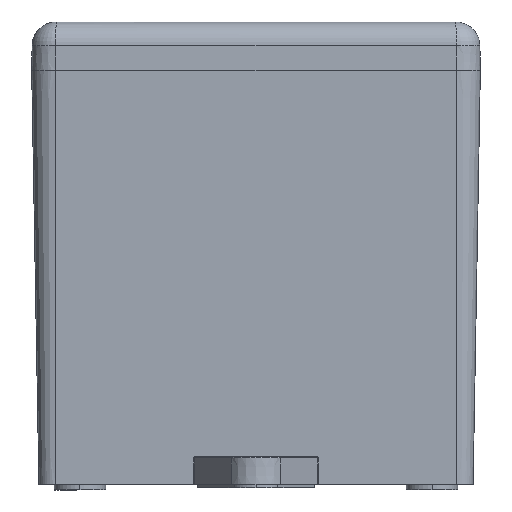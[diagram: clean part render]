
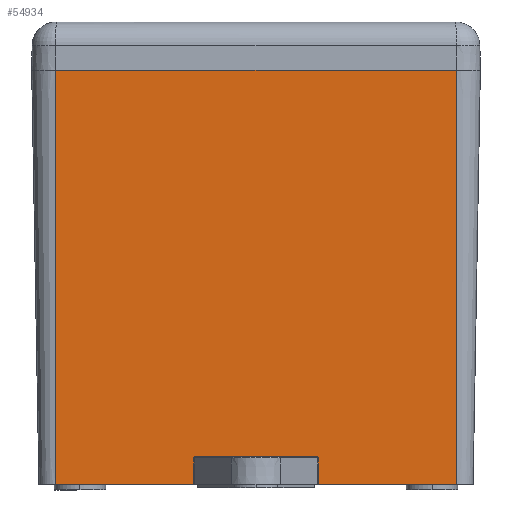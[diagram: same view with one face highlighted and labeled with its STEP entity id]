
A CAD part, left-side view. The second image highlights one B-rep face of the part: STEP entity #54934.
In plain terms, the highlighted planar face has unit normal (-1, 0, -0.018).
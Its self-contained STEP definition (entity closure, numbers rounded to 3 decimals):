
#100 = VERTEX_POINT ( 'NONE', #41471 ) ;
#643 = LINE ( 'NONE', #16244, #65813 ) ;
#2746 = LINE ( 'NONE', #12383, #9185 ) ;
#3342 = VECTOR ( 'NONE', #27461, 1000. ) ;
#6886 = CARTESIAN_POINT ( 'NONE',  ( -65., -58., -14. ) ) ;
#8753 = ORIENTED_EDGE ( 'NONE', *, *, #14775, .T. ) ;
#9185 = VECTOR ( 'NONE', #47925, 1000. ) ;
#10875 = EDGE_CURVE ( 'NONE', #100, #64907, #58813, .T. ) ;
#11115 = ORIENTED_EDGE ( 'NONE', *, *, #64866, .F. ) ;
#11847 = CARTESIAN_POINT ( 'NONE',  ( -63.045, 17.96, -126. ) ) ;
#12383 = CARTESIAN_POINT ( 'NONE',  ( -64.987, -16.018, -14.733 ) ) ;
#12467 = ORIENTED_EDGE ( 'NONE', *, *, #15001, .T. ) ;
#12483 = LINE ( 'NONE', #52705, #3342 ) ;
#13429 = ORIENTED_EDGE ( 'NONE', *, *, #54001, .F. ) ;
#14775 = EDGE_CURVE ( 'NONE', #25660, #64907, #46390, .T. ) ;
#15001 = EDGE_CURVE ( 'NONE', #48721, #25660, #12483, .T. ) ;
#16244 = CARTESIAN_POINT ( 'NONE',  ( -65.023, 15.983, -12.709 ) ) ;
#16954 = DIRECTION ( 'NONE',  ( -0.017, 0., 1. ) ) ;
#18186 = LINE ( 'NONE', #23167, #23117 ) ;
#19145 = EDGE_CURVE ( 'NONE', #48721, #33363, #34125, .T. ) ;
#20153 = CARTESIAN_POINT ( 'NONE',  ( -65., -58., -14. ) ) ;
#21181 = DIRECTION ( 'NONE',  ( -1., 0., -0.017 ) ) ;
#21230 = CARTESIAN_POINT ( 'NONE',  ( -65., 58., -14. ) ) ;
#21499 = DIRECTION ( 'NONE',  ( 0., -1., 0. ) ) ;
#22629 = CARTESIAN_POINT ( 'NONE',  ( -63.045, -17.96, -126. ) ) ;
#23117 = VECTOR ( 'NONE', #64691, 1000. ) ;
#23167 = CARTESIAN_POINT ( 'NONE',  ( -63.045, -58., -126. ) ) ;
#25660 = VERTEX_POINT ( 'NONE', #54350 ) ;
#25940 = DIRECTION ( 'NONE',  ( 0., 1., 0. ) ) ;
#26828 = FACE_OUTER_BOUND ( 'NONE', #44026, .T. ) ;
#27461 = DIRECTION ( 'NONE',  ( -0.017, 0., 1. ) ) ;
#27777 = VECTOR ( 'NONE', #50385, 1000. ) ;
#28562 = CARTESIAN_POINT ( 'NONE',  ( -65., 58., -14. ) ) ;
#29767 = VERTEX_POINT ( 'NONE', #11847 ) ;
#32716 = ORIENTED_EDGE ( 'NONE', *, *, #19145, .F. ) ;
#33363 = VERTEX_POINT ( 'NONE', #49909 ) ;
#34125 = LINE ( 'NONE', #48476, #63087 ) ;
#34767 = ORIENTED_EDGE ( 'NONE', *, *, #10875, .F. ) ;
#35574 = VERTEX_POINT ( 'NONE', #22629 ) ;
#36575 = LINE ( 'NONE', #57205, #48685 ) ;
#41180 = CARTESIAN_POINT ( 'NONE',  ( -62.905, 18.1, -134. ) ) ;
#41471 = CARTESIAN_POINT ( 'NONE',  ( -62.905, 58., -134. ) ) ;
#44026 = EDGE_LOOP ( 'NONE', ( #11115, #52123, #13429, #32716, #12467, #8753, #34767, #52728 ) ) ;
#45067 = CARTESIAN_POINT ( 'NONE',  ( -62.905, -58., -134. ) ) ;
#46390 = LINE ( 'NONE', #20153, #27777 ) ;
#47925 = DIRECTION ( 'NONE',  ( -0.017, 0.017, 1. ) ) ;
#48476 = CARTESIAN_POINT ( 'NONE',  ( -62.905, -58., -134. ) ) ;
#48685 = VECTOR ( 'NONE', #25940, 1000. ) ;
#48721 = VERTEX_POINT ( 'NONE', #45067 ) ;
#49909 = CARTESIAN_POINT ( 'NONE',  ( -62.905, -18.1, -134. ) ) ;
#50385 = DIRECTION ( 'NONE',  ( 0., 1., 0. ) ) ;
#51751 = AXIS2_PLACEMENT_3D ( 'NONE', #6886, #21181, #21499 ) ;
#52090 = PLANE ( 'NONE',  #51751 ) ;
#52123 = ORIENTED_EDGE ( 'NONE', *, *, #55014, .F. ) ;
#52705 = CARTESIAN_POINT ( 'NONE',  ( -65., -58., -14. ) ) ;
#52728 = ORIENTED_EDGE ( 'NONE', *, *, #56655, .F. ) ;
#54001 = EDGE_CURVE ( 'NONE', #33363, #35574, #2746, .T. ) ;
#54350 = CARTESIAN_POINT ( 'NONE',  ( -65., -58., -14. ) ) ;
#54934 = ADVANCED_FACE ( 'NONE', ( #26828 ), #52090, .T. ) ;
#55014 = EDGE_CURVE ( 'NONE', #35574, #29767, #18186, .T. ) ;
#55073 = VECTOR ( 'NONE', #16954, 1000. ) ;
#56655 = EDGE_CURVE ( 'NONE', #58095, #100, #36575, .T. ) ;
#57205 = CARTESIAN_POINT ( 'NONE',  ( -62.905, -58., -134. ) ) ;
#58095 = VERTEX_POINT ( 'NONE', #41180 ) ;
#58813 = LINE ( 'NONE', #28562, #55073 ) ;
#62138 = DIRECTION ( 'NONE',  ( 0.017, 0.017, -1. ) ) ;
#63087 = VECTOR ( 'NONE', #64737, 1000. ) ;
#64691 = DIRECTION ( 'NONE',  ( 0., 1., 0. ) ) ;
#64737 = DIRECTION ( 'NONE',  ( 0., 1., 0. ) ) ;
#64866 = EDGE_CURVE ( 'NONE', #29767, #58095, #643, .T. ) ;
#64907 = VERTEX_POINT ( 'NONE', #21230 ) ;
#65813 = VECTOR ( 'NONE', #62138, 1000. ) ;
